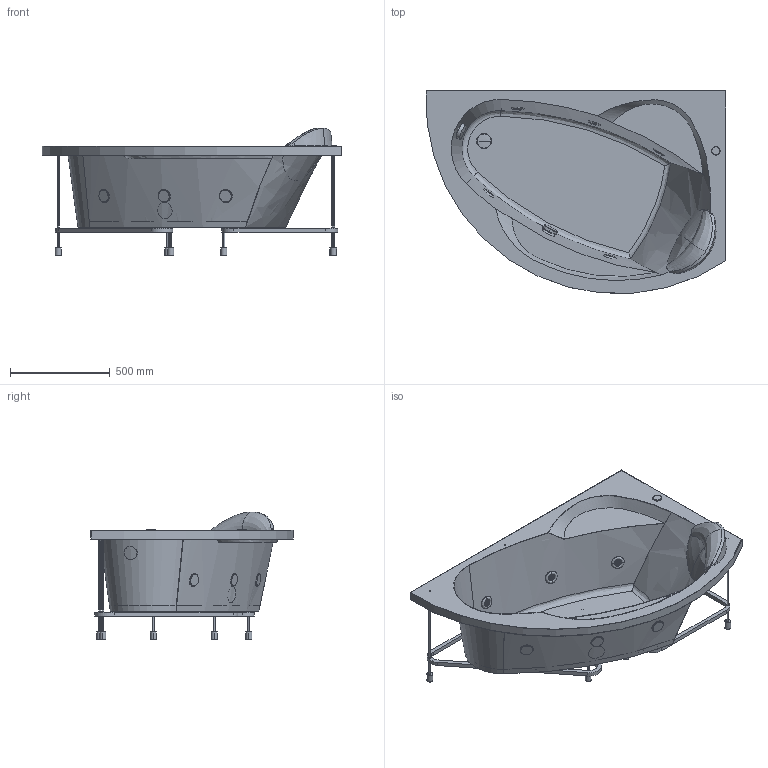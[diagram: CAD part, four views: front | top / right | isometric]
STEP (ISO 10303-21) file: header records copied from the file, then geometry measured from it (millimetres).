
FILE_DESCRIPTION(('STEP AP203'),'2;1');
FILE_NAME('VOG 3 15085 P D.stp','2015-07-24T16:34:07',(''),(''),'2014.1.117','THINKDESIGN','');
FILE_SCHEMA(('CONFIG_CONTROL_DESIGN'));
Length unit declared in the file: millimetre
Bounding box: 1500 x 1011.76 x 640.5 mm (x, y, z)
Volume: 13408292.8 mm3; surface area: 5714030.4 mm2
Topology: 14 solids, 14 shells, 350 faces, 751 edges, 443 vertices
Faces by surface type: bspline 154, plane 98, cylinder 98
Entity records: 19587 total; most frequent: CARTESIAN_POINT 12530, ORIENTED_EDGE 1434, DIRECTION 1418, EDGE_CURVE 717, AXIS2_PLACEMENT_3D 602, VERTEX_POINT 443, CIRCLE 406, EDGE_LOOP 402
